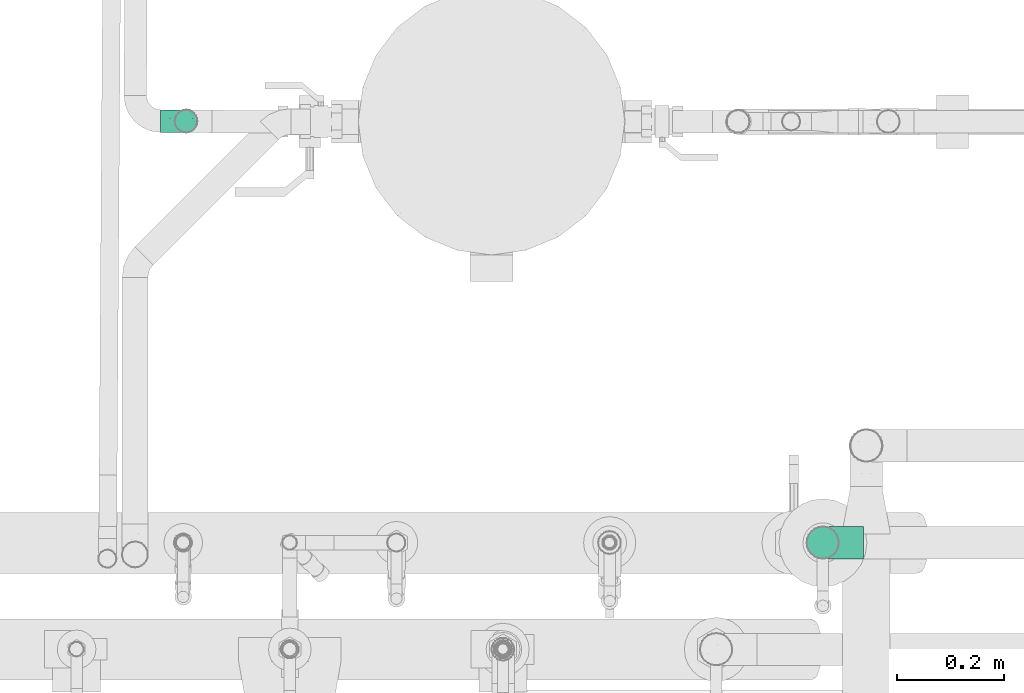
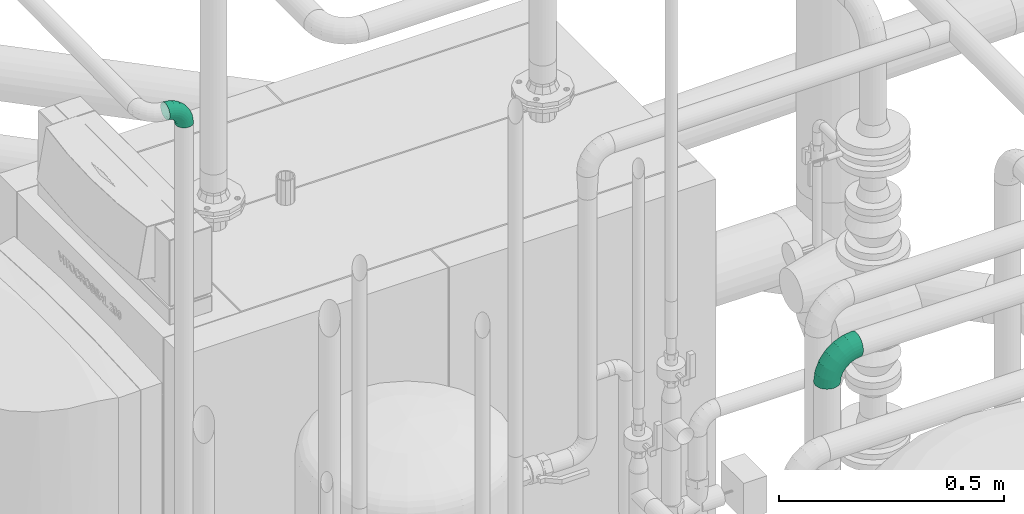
# One storey, part 111 of 374: 2 flow segments.
"""IFC2X3 building model written with IfcOpenShell, lengths in metres."""

from ifc_helpers import new_model, si_unit, direction, origin, place, context, subcontext, project, spatial, open_shell, surface_model, source, transform, mapped, element, save


model = new_model("IFC2X3")

# Units and contexts
model_context = context("Model", 3, precision=1e-05, world=origin(), true_north=direction((-0.4480736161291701, 0.8939966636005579)))
body_context = subcontext(model_context, "Body", "Model", "MODEL_VIEW")
ifc_project = project(units=[si_unit("LENGTHUNIT", "METRE"), si_unit("AREAUNIT", "SQUARE_METRE"), si_unit("VOLUMEUNIT", "CUBIC_METRE"), si_unit("PLANEANGLEUNIT", "RADIAN"), si_unit("THERMODYNAMICTEMPERATUREUNIT", "KELVIN"), si_unit("MASSUNIT", "GRAM", prefix="KILO"), si_unit("TIMEUNIT", "SECOND")], contexts=[model_context])

# Site, building, storey
site_placement = place(None, origin())
site = spatial("IfcSite", under=ifc_project, at=site_placement, Name="Site 1", CompositionType="ELEMENT")
building_placement = place(site_placement, origin())
building = spatial("IfcBuilding", under=site, at=building_placement, Name="Undefined", CompositionType="ELEMENT")
storey_placement = place(building_placement, origin())
storey = spatial("IfcBuildingStorey", under=building, at=storey_placement, Name="Rez de chauss\x8ee", CompositionType="ELEMENT", Elevation=0.0)

# Flow segments
shared_shape_1 = source(origin(), body_context, "Body", "SurfaceModel", [
    surface_model("IfcFaceBasedSurfaceModel", [(0.01806482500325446, 7.105427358e-15, 0.0), (0.017970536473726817, 0.005533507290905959, 0.0), (9.428852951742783e-05, 0.005533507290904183, 1.776356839e-15), (0.0, 0.0, 0.0), (-0.017172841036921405, 0.00613233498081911, -0.004587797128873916), (-0.01744928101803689, 0.0006051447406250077, -0.004636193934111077), (-0.03265412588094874, 0.007289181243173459, -0.013450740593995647), (-0.0330938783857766, 0.0017741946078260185, -0.013592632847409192), (-0.045294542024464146, 0.008925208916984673, -0.02598483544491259), (-0.045867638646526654, 0.0034274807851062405, -0.02625895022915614), (-0.054232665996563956, 0.010928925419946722, -0.041335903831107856), (-0.05490005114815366, 0.005452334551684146, -0.04177195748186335), (-0.05885937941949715, 0.013163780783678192, -0.05845779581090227), (-0.059575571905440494, 0.007710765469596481, -0.05907446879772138), (0.01769409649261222, 0.010875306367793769, -0.0014203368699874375), (0.00037072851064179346, 0.010875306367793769, -0.0014203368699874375), (-0.016362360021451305, 0.011455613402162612, -0.005866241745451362), (-0.03136483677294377, 0.012576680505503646, -0.014455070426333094), (-0.04361430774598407, 0.014162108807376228, -0.026601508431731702), (-0.05227599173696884, 0.016103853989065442, -0.0414777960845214), (-0.05675960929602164, 0.018269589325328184, -0.05807013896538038), (0.017254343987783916, 0.015661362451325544, -0.0041642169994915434), (0.0008104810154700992, 0.015661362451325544, -0.004164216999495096), (-0.01507307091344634, 0.016212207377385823, -0.008384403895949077), (-0.029313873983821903, 0.01727635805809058, -0.016537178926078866), (-0.04094144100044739, 0.01878129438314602, -0.02806694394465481), (-0.049163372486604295, 0.02062445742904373, -0.042187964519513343), (-0.05341935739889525, 0.02268023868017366, -0.05793791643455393), (0.016681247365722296, 0.01956551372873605, -0.008044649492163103), (0.001383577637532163, 0.01956551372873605, -0.008044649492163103), (-0.01339283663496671, 0.020077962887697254, -0.011970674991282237), (-0.026641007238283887, 0.021067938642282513, -0.01955517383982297), (-0.03745809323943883, 0.02246797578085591, -0.03028127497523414), (-0.04510692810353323, 0.0241826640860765, -0.04341801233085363), (-0.04906625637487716, 0.026095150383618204, -0.05807013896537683), (0.016013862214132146, 0.022321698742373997, -0.012797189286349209), (0.0020509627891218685, 0.022321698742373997, -0.012797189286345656), (-0.011436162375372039, 0.02278943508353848, -0.016380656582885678), (-0.023528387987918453, 0.02369303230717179, -0.023303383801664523), (-0.03340164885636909, 0.024970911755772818, -0.03309359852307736), (-0.040383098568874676, 0.026535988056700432, -0.04508411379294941), (-0.04399696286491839, 0.028281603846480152, -0.05845779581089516), (0.015297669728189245, 0.023742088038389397, -0.018097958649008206), (0.00276715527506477, 0.023742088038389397, -0.018097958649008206), (-0.009336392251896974, 0.024161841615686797, -0.021313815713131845), (-0.02018813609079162, 0.02497274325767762, -0.0275263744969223), (-0.029048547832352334, 0.02611953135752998, -0.03631225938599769), (-0.03531380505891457, 0.027524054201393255, -0.04707272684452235), (-0.0385569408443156, 0.02909059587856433, -0.05907446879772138), (0.014581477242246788, 0.023729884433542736, -0.02358571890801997), (0.0034833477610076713, 0.023729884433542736, -0.02358571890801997), (-0.007236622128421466, 0.024101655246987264, -0.026433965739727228), (-0.016847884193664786, 0.02481986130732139, -0.03193635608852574), (-0.02469544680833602, 0.02583555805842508, -0.03971791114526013), (-0.0302445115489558, 0.027079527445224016, -0.04924833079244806), (-0.03311691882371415, 0.02846699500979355, -0.059878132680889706), (0.013914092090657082, 0.02228591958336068, -0.02888648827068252), (0.004150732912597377, 0.022285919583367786, -0.028886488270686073), (-0.005279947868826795, 0.022612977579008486, -0.031392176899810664), (-0.013735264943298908, 0.023244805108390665, -0.03623279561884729), (-0.020639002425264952, 0.02413834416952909, -0.04307846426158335), (-0.025520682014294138, 0.025232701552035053, -0.051462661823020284), (-0.028047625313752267, 0.026453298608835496, -0.060814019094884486), (0.013340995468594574, 0.01950859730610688, -0.03363902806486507), (0.0047238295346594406, 0.01950859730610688, -0.033639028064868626), (-0.0035997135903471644, 0.019797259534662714, -0.035850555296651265), (-0.011062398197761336, 0.0203549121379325, -0.04012289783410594), (-0.017155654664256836, 0.021143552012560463, -0.04616490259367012), (-0.02146423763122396, 0.022109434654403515, -0.05356481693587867), (-0.02369452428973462, 0.023186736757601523, -0.06181834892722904), (0.012901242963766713, 0.015587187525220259, -0.037519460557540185), (0.005163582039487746, 0.015587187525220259, -0.03751946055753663), (-0.0023104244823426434, 0.015846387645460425, -0.03950526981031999), (-0.009011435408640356, 0.016347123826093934, -0.043341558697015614), (-0.01448278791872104, 0.017055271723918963, -0.048766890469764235), (-0.018351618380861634, 0.017922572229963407, -0.05541153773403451), (-0.02035427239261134, 0.018889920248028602, -0.06282267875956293), (0.012624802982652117, 0.010788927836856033, -0.040263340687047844), (0.005440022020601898, 0.010788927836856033, -0.0402633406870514), (-0.0014999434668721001, 0.011029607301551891, -0.04210725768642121), (-0.007722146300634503, 0.01149456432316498, -0.045669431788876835), (-0.012802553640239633, 0.012152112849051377, -0.05070710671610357), (-0.0163949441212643, 0.012957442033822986, -0.056876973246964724), (-0.018254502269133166, 0.013855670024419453, -0.06375856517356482), (0.012530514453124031, 0.005440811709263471, -0.041683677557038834), (0.005534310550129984, 0.0054408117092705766, -0.041683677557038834), (-0.0012235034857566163, 0.005675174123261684, -0.04347919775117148), (-0.007282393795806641, 0.006127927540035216, -0.046947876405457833), (-0.012229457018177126, 0.0067682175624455, -0.05185332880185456), (-0.015727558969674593, 0.007552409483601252, -0.05786125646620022), (-0.01753830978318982, 0.008427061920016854, -0.0645622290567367), (0.012624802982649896, -9.26955816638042e-05, -0.04168367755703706), (0.005440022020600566, -9.269558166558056e-05, -0.04168367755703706), (-0.0014999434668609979, 0.00014798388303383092, -0.0435275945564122), (-0.007722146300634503, 0.0006129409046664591, -0.047089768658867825), (-0.012802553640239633, 0.001270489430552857, -0.05212744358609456), (-0.0163949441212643, 0.002075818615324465, -0.058297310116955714), (-0.018254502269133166, 0.0029740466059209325, -0.06517890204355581), (0.012901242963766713, -0.005434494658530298, -0.0402633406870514), (0.005163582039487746, -0.005434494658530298, -0.040263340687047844), (-0.0023104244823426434, -0.005175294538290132, -0.0422491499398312), (-0.009011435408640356, -0.004674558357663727, -0.046085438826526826), (-0.01448278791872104, -0.0039664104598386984, -0.051510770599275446), (-0.018351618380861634, -0.0030991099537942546, -0.05815541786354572), (-0.02035427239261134, -0.0021317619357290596, -0.06556655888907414), (0.013340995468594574, -0.010220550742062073, -0.03751946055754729), (0.0047238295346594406, -0.010220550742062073, -0.03751946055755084), (-0.0035997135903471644, -0.009931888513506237, -0.03973098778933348), (-0.011062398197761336, -0.009374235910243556, -0.04400333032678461), (-0.017155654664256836, -0.00858559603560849, -0.05004533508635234), (-0.02146423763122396, -0.007619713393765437, -0.057445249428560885), (-0.02369452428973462, -0.006542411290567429, -0.06569878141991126), (0.013914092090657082, -0.01412470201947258, -0.03363902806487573), (0.004150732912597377, -0.014124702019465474, -0.033639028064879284), (-0.005279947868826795, -0.013797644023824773, -0.036144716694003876), (-0.013735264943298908, -0.013165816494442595, -0.0409853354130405), (-0.020639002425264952, -0.012272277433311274, -0.04783100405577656), (-0.025520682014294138, -0.011177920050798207, -0.05621520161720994), (-0.028047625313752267, -0.009957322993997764, -0.0655665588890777), (0.014581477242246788, -0.01688088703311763, -0.028886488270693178), (0.0034833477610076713, -0.01688088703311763, -0.028886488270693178), (-0.007236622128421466, -0.016509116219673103, -0.031734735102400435), (-0.016847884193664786, -0.015790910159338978, -0.03723712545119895), (-0.02469544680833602, -0.014775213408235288, -0.04501868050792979), (-0.0302445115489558, -0.01353124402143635, -0.054549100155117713), (-0.03311691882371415, -0.012143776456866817, -0.06517890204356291), (0.015297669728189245, -0.01830127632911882, -0.02358571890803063), (0.00276715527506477, -0.01830127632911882, -0.02358571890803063), (-0.009336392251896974, -0.01788152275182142, -0.026801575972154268), (-0.02018813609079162, -0.017070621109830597, -0.033014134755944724), (-0.029048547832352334, -0.01592383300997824, -0.04180001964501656), (-0.03531380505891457, -0.014519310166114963, -0.05256048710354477), (-0.0385569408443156, -0.012952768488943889, -0.06456222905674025), (0.016013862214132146, -0.01828907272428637, -0.018097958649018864), (0.0020509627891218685, -0.01828907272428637, -0.018097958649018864), (-0.011436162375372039, -0.01782133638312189, -0.021681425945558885), (-0.023528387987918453, -0.016917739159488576, -0.02860415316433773), (-0.03340164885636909, -0.01563985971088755, -0.038394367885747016), (-0.040383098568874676, -0.014074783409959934, -0.05038488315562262), (-0.04399696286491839, -0.012329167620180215, -0.06375856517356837), (0.016681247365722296, -0.01684510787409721, -0.012797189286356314), (0.001383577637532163, -0.01684510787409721, -0.012797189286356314), (-0.01339283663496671, -0.016332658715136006, -0.01672321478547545), (-0.026641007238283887, -0.015342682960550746, -0.02430771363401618), (-0.03745809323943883, -0.01394264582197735, -0.03503381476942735), (-0.04510692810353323, -0.01222795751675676, -0.04817055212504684), (-0.04906625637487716, -0.010315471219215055, -0.06282267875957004), (0.017254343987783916, -0.014067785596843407, -0.008044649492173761), (0.0008104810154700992, -0.014067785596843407, -0.008044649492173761), (-0.01507307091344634, -0.013516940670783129, -0.012264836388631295), (-0.029313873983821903, -0.012452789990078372, -0.020417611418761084), (-0.04094144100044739, -0.010947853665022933, -0.03194737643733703), (-0.049163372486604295, -0.009104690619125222, -0.04606839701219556), (-0.05341935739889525, -0.007048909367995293, -0.06181834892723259), (0.01769409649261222, -0.010146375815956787, -0.004164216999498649), (0.00037072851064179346, -0.010146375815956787, -0.004164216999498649), (-0.016362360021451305, -0.009566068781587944, -0.008610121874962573), (-0.03136483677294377, -0.008445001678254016, -0.017198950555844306), (-0.04361430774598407, -0.006859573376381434, -0.029345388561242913), (-0.05227599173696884, -0.00491782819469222, -0.04422167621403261), (-0.05675960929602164, -0.002752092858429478, -0.060814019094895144), (0.017970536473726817, -0.0053481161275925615, -0.0014203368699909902), (9.428852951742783e-05, -0.0053481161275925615, -0.0014203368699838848), (-0.017172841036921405, -0.004749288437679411, -0.006008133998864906), (-0.03265412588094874, -0.0035924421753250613, -0.014871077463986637), (-0.045294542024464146, -0.001956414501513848, -0.02740517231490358), (-0.05423266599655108, 4.730200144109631e-05, -0.042756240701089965), (-0.05885937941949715, 0.002282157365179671, -0.05987813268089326)], [open_shell([[[0, 1, 2, 3]], [[3, 2, 4, 5]], [[5, 4, 6, 7]], [[7, 6, 8, 9]], [[9, 8, 10, 11]], [[11, 10, 12, 13]], [[1, 14, 15, 2]], [[2, 15, 16, 4]], [[4, 16, 17, 6]], [[6, 17, 18, 8]], [[8, 18, 19, 10]], [[10, 19, 20, 12]], [[14, 21, 22, 15]], [[15, 22, 23, 16]], [[16, 23, 24, 17]], [[17, 24, 25, 18]], [[18, 25, 26, 19]], [[19, 26, 27, 20]], [[21, 28, 29, 22]], [[22, 29, 30, 23]], [[23, 30, 31, 24]], [[24, 31, 32, 25]], [[25, 32, 33, 26]], [[26, 33, 34, 27]], [[28, 35, 36, 29]], [[29, 36, 37, 30]], [[30, 37, 38, 31]], [[31, 38, 39, 32]], [[32, 39, 40, 33]], [[33, 40, 41, 34]], [[35, 42, 43, 36]], [[36, 43, 44, 37]], [[37, 44, 45, 38]], [[38, 45, 46, 39]], [[39, 46, 47, 40]], [[40, 47, 48, 41]], [[42, 49, 50, 43]], [[43, 50, 51, 44]], [[44, 51, 52, 45]], [[45, 52, 53, 46]], [[46, 53, 54, 47]], [[47, 54, 55, 48]], [[49, 56, 57, 50]], [[50, 57, 58, 51]], [[51, 58, 59, 52]], [[52, 59, 60, 53]], [[53, 60, 61, 54]], [[54, 61, 62, 55]], [[56, 63, 64, 57]], [[57, 64, 65, 58]], [[58, 65, 66, 59]], [[59, 66, 67, 60]], [[60, 67, 68, 61]], [[61, 68, 69, 62]], [[63, 70, 71, 64]], [[64, 71, 72, 65]], [[65, 72, 73, 66]], [[66, 73, 74, 67]], [[67, 74, 75, 68]], [[68, 75, 76, 69]], [[70, 77, 78, 71]], [[71, 78, 79, 72]], [[72, 79, 80, 73]], [[73, 80, 81, 74]], [[74, 81, 82, 75]], [[75, 82, 83, 76]], [[77, 84, 85, 78]], [[78, 85, 86, 79]], [[79, 86, 87, 80]], [[80, 87, 88, 81]], [[81, 88, 89, 82]], [[82, 89, 90, 83]], [[84, 91, 92, 85]], [[85, 92, 93, 86]], [[86, 93, 94, 87]], [[87, 94, 95, 88]], [[88, 95, 96, 89]], [[89, 96, 97, 90]], [[91, 98, 99, 92]], [[92, 99, 100, 93]], [[93, 100, 101, 94]], [[94, 101, 102, 95]], [[95, 102, 103, 96]], [[96, 103, 104, 97]], [[98, 105, 106, 99]], [[99, 106, 107, 100]], [[100, 107, 108, 101]], [[101, 108, 109, 102]], [[102, 109, 110, 103]], [[103, 110, 111, 104]], [[105, 112, 113, 106]], [[106, 113, 114, 107]], [[107, 114, 115, 108]], [[108, 115, 116, 109]], [[109, 116, 117, 110]], [[110, 117, 118, 111]], [[112, 119, 120, 113]], [[113, 120, 121, 114]], [[114, 121, 122, 115]], [[115, 122, 123, 116]], [[116, 123, 124, 117]], [[117, 124, 125, 118]], [[119, 126, 127, 120]], [[120, 127, 128, 121]], [[121, 128, 129, 122]], [[122, 129, 130, 123]], [[123, 130, 131, 124]], [[124, 131, 132, 125]], [[126, 133, 134, 127]], [[127, 134, 135, 128]], [[128, 135, 136, 129]], [[129, 136, 137, 130]], [[130, 137, 138, 131]], [[131, 138, 139, 132]], [[133, 140, 141, 134]], [[134, 141, 142, 135]], [[135, 142, 143, 136]], [[136, 143, 144, 137]], [[137, 144, 145, 138]], [[138, 145, 146, 139]], [[140, 147, 148, 141]], [[141, 148, 149, 142]], [[142, 149, 150, 143]], [[143, 150, 151, 144]], [[144, 151, 152, 145]], [[145, 152, 153, 146]], [[147, 154, 155, 148]], [[148, 155, 156, 149]], [[149, 156, 157, 150]], [[150, 157, 158, 151]], [[151, 158, 159, 152]], [[152, 159, 160, 153]], [[154, 161, 162, 155]], [[155, 162, 163, 156]], [[156, 163, 164, 157]], [[157, 164, 165, 158]], [[158, 165, 166, 159]], [[159, 166, 167, 160]], [[161, 0, 3, 162]], [[162, 3, 5, 163]], [[163, 5, 7, 164]], [[164, 7, 9, 165]], [[165, 9, 11, 166]], [[166, 11, 13, 167]]])]),
])
flow_segment_1_placement = place(storey_placement, origin())
element("IfcFlowSegment", 1, at=flow_segment_1_placement, inside=storey, Name="Tube coudé", ObjectType="Tube coudé", context=body_context, shape_type="MappedRepresentation", body=[
    mapped(shared_shape_1, transform((53.03313546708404, 11.708929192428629, 2.6923699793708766), x_axis=(-0.9914207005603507, 0.00692153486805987, 0.13052619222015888), y_axis=(-0.023815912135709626, -0.9914466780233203, -0.12832103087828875), z_axis=(0.1285215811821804, -0.13032872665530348, 0.9831056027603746))),
])
shared_shape_2 = source(origin(), body_context, "Body", "SurfaceModel", [
    surface_model("IfcFaceBasedSurfaceModel", [(0.027710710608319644, 4.4408921e-16, 0.0), (0.02757661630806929, 0.00786958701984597, 7.105427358e-15), (0.00013409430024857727, 0.00786958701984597, 0.0), (0.0, 0.0, 0.0), (-0.02637334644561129, 0.008788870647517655, -0.0070429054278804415), (-0.026766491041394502, 0.0009282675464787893, -0.007111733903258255), (-0.050139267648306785, 0.010564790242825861, -0.02064875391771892), (-0.050764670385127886, 0.0027215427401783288, -0.02085054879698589), (-0.06954406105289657, 0.013076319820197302, -0.03989032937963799), (-0.07035910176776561, 0.00525761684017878, -0.04028016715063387), (-0.0832653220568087, 0.01615230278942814, -0.06345635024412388), (-0.08421445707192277, 0.00836366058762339, -0.06407649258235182), (-0.09036796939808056, 0.019583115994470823, -0.08974083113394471), (-0.0913865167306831, 0.011828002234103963, -0.09061784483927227), (0.027183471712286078, 0.015466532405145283, -0.0020199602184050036), (0.0005272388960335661, 0.015466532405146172, -0.0020199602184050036), (-0.025220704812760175, 0.016359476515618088, -0.008861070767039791), (-0.048305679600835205, 0.018084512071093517, -0.02207708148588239), (-0.06715448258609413, 0.020524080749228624, -0.04076734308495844), (-0.0804825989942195, 0.023511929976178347, -0.06365814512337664), (-0.08738173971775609, 0.026844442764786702, -0.08918951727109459), (0.026558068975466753, 0.022273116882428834, -0.005922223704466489), (0.001152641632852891, 0.02227311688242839, -0.005922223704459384), (-0.02338711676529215, 0.023124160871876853, -0.012442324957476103), (-0.04538886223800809, 0.02476825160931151, -0.02503819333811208), (-0.06335321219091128, 0.027093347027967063, -0.042851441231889), (-0.07605592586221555, 0.029940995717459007, -0.06466812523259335), (-0.08263133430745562, 0.033117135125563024, -0.08900147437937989), (0.025743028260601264, 0.0278254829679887, -0.011440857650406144), (0.0019676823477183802, 0.027825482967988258, -0.011440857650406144), (-0.020997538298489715, 0.028621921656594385, -0.017542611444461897), (-0.04158759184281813, 0.03016052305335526, -0.029330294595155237), (-0.058399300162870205, 0.0323364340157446, -0.04600059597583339), (-0.07028697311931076, 0.03500136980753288, -0.06641746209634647), (-0.07644048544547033, 0.0379737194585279, -0.08918951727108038), (0.02479389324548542, 0.03174524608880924, -0.01819977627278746), (0.0029168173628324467, 0.03174524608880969, -0.01819977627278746), (-0.018214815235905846, 0.0324780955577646, -0.023814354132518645), (-0.03716091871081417, 0.033893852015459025, -0.034660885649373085), (-0.052630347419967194, 0.03589603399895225, -0.05000019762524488), (-0.06356888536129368, 0.03834819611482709, -0.06878694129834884), (-0.06923108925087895, 0.041083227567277, -0.0897408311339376), (0.023775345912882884, 0.03376528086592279, -0.02573837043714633), (0.003935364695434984, 0.03376528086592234, -0.02573837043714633), (-0.01522858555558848, 0.03442989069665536, -0.03083014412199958), (-0.0324105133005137, 0.03571381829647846, -0.040666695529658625), (-0.046439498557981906, 0.0375295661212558, -0.05457767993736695), (-0.05635948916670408, 0.039753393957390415, -0.07161508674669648), (-0.061494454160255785, 0.04223375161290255, -0.09061784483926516), (0.022756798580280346, 0.03374792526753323, -0.033542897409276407), (0.0049539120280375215, 0.033747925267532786, -0.033542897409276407), (-0.01224235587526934, 0.03434429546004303, -0.03811186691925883), (-0.027660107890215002, 0.035496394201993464, -0.04693843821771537), (-0.040248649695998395, 0.0371257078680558, -0.05942109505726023), (-0.04915009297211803, 0.039121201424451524, -0.07470916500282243), (-0.05375781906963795, 0.041346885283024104, -0.09176079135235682), (0.02180766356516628, 0.03169436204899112, -0.04108149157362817), (0.005903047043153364, 0.031694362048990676, -0.04108149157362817), (-0.00945963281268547, 0.03222714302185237, -0.045163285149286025), (-0.02323343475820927, 0.03325639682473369, -0.05304870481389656), (-0.034479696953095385, 0.034711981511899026, -0.06420037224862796), (-0.04243200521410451, 0.036494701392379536, -0.07785831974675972), (-0.04654842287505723, 0.03848306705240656, -0.09309178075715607), (0.020992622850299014, 0.02774453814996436, -0.0478404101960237), (0.006718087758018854, 0.027744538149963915, -0.0478404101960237), (-0.007070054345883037, 0.02822271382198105, -0.05150385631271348), (-0.019432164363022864, 0.0291464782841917, -0.0585810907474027), (-0.029525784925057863, 0.030452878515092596, -0.06858981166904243), (-0.03666305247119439, 0.032052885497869, -0.08084794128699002), (-0.04035757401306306, 0.03383746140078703, -0.09452010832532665), (0.020367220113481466, 0.022167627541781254, -0.05335904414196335), (0.0073434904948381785, 0.022167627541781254, -0.05335904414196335), (-0.00523646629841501, 0.02260390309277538, -0.05670148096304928), (-0.016515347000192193, 0.023446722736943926, -0.06315857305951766), (-0.025724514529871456, 0.02463864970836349, -0.07229028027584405), (-0.03223637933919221, 0.02609845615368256, -0.0834742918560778), (-0.03560716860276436, 0.027726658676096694, -0.09594843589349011), (0.019974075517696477, 0.01534368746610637, -0.05726130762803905), (0.007736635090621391, 0.01534368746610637, -0.05726130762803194), (-0.004083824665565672, 0.01575362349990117, -0.06040194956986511), (-0.014681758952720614, 0.01654555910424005, -0.06646920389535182), (-0.02333493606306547, 0.01766552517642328, -0.07504959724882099), (-0.029453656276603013, 0.01903719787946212, -0.08555839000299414), (-0.032620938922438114, 0.02056709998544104, -0.09727942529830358), (0.019839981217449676, 0.00773775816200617, -0.05928126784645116), (0.007870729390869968, 0.007737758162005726, -0.05928126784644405), (-0.003690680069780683, 0.008138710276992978, -0.062353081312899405), (-0.014056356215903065, 0.008913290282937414, -0.06828736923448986), (-0.022519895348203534, 0.01000871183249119, -0.07667971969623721), (-0.0285045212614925, 0.011350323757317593, -0.08695820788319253), (-0.03160239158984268, 0.012846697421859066, -0.09842237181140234), (0.019974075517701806, -0.0001318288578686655, -0.05928126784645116), (0.007736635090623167, -0.0001318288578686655, -0.059281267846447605), (-0.004083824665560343, 0.0002781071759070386, -0.062421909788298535), (-0.014681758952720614, 0.001070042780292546, -0.06848916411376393), (-0.02333493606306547, 0.0021900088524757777, -0.0770695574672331), (-0.029453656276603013, 0.0035616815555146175, -0.08757835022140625), (-0.032620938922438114, 0.005091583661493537, -0.09929938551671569), (0.020367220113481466, -0.007728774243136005, -0.057261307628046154), (0.0073434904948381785, -0.007728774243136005, -0.057261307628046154), (-0.00523646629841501, -0.00729249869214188, -0.06060374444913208), (-0.016515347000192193, -0.0064496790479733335, -0.06706083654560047), (-0.025724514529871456, -0.005257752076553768, -0.07619254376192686), (-0.03223637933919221, -0.0037979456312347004, -0.0873765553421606), (-0.03560716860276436, -0.0021697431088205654, -0.09985069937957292), (0.020992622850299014, -0.01453535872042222, -0.053359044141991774), (0.006718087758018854, -0.014535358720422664, -0.053359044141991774), (-0.007070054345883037, -0.01405718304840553, -0.05702249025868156), (-0.019432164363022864, -0.013133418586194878, -0.06409972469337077), (-0.029525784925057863, -0.011827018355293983, -0.07410844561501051), (-0.03666305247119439, -0.01022701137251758, -0.0863665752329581), (-0.04035757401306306, -0.008442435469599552, -0.10003874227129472), (0.02180766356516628, -0.020087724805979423, -0.04784041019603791), (0.005903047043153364, -0.020087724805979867, -0.04784041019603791), (-0.00945963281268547, -0.019554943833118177, -0.05192220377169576), (-0.02323343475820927, -0.018525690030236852, -0.0598076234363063), (-0.034479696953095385, -0.017070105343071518, -0.0709592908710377), (-0.04243200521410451, -0.015287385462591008, -0.08461723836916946), (-0.04654842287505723, -0.013299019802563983, -0.09985069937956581), (0.022756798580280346, -0.024007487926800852, -0.0410814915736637), (0.0049539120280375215, -0.024007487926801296, -0.0410814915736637), (-0.01224235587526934, -0.023411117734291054, -0.04565046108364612), (-0.027660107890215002, -0.022259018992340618, -0.054477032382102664), (-0.040248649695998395, -0.02062970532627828, -0.06695968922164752), (-0.04915009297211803, -0.018634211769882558, -0.08224775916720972), (-0.05375781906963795, -0.016408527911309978, -0.09929938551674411), (0.023775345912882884, -0.026027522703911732, -0.033542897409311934), (0.003935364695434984, -0.026027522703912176, -0.033542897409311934), (-0.01522858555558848, -0.025362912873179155, -0.038634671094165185), (-0.0324105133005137, -0.024078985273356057, -0.04847122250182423), (-0.046439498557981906, -0.02226323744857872, -0.062382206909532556), (-0.05635948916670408, -0.020039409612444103, -0.07941961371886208), (-0.061494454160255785, -0.01755905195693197, -0.09842237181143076), (0.02479389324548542, -0.02601016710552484, -0.02573837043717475), (0.0029168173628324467, -0.026010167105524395, -0.02573837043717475), (-0.018214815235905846, -0.025277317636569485, -0.031352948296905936), (-0.03716091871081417, -0.023861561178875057, -0.04219947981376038), (-0.052630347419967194, -0.021859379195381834, -0.05753879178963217), (-0.06356888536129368, -0.01940721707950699, -0.07632553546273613), (-0.06923108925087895, -0.01667218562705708, -0.0972794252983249), (0.025743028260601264, -0.023956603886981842, -0.018199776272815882), (0.0019676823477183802, -0.023956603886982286, -0.018199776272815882), (-0.020997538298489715, -0.02316016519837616, -0.024301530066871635), (-0.04158759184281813, -0.021621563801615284, -0.036089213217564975), (-0.058399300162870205, -0.019445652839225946, -0.05275951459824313), (-0.07028697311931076, -0.016780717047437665, -0.0731763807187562), (-0.07644048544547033, -0.013808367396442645, -0.09594843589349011), (0.026558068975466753, -0.020006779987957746, -0.011440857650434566), (0.001152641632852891, -0.02000677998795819, -0.01144085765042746), (-0.02338711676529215, -0.019155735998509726, -0.01796095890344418), (-0.04538886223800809, -0.01751164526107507, -0.030556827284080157), (-0.06335321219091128, -0.015186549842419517, -0.048370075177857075), (-0.07605592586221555, -0.012338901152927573, -0.07018675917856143), (-0.08263133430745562, -0.009162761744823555, -0.09452010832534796), (0.027183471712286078, -0.014429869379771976, -0.005922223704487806), (0.0005272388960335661, -0.014429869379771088, -0.005922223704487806), (-0.025220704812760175, -0.013536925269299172, -0.012763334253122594), (-0.048305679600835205, -0.011811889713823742, -0.02597934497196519), (-0.06715448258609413, -0.009372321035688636, -0.04466960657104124), (-0.0804825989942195, -0.006384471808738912, -0.06756040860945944), (-0.08738173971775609, -0.003051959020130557, -0.09309178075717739), (0.02757661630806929, -0.007605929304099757, -0.0020199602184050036), (0.00013409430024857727, -0.007605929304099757, -0.002019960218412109), (-0.02637334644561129, -0.006686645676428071, -0.00906286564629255), (-0.050139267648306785, -0.004910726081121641, -0.02266871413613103), (-0.06954406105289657, -0.0023991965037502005, -0.0419102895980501), (-0.0832653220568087, 0.0006767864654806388, -0.06547631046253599), (-0.09036796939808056, 0.004107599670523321, -0.09176079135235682)], [open_shell([[[0, 1, 2, 3]], [[3, 2, 4, 5]], [[5, 4, 6, 7]], [[7, 6, 8, 9]], [[9, 8, 10, 11]], [[11, 10, 12, 13]], [[1, 14, 15, 2]], [[2, 15, 16, 4]], [[4, 16, 17, 6]], [[6, 17, 18, 8]], [[8, 18, 19, 10]], [[10, 19, 20, 12]], [[14, 21, 22, 15]], [[15, 22, 23, 16]], [[16, 23, 24, 17]], [[17, 24, 25, 18]], [[18, 25, 26, 19]], [[19, 26, 27, 20]], [[21, 28, 29, 22]], [[22, 29, 30, 23]], [[23, 30, 31, 24]], [[24, 31, 32, 25]], [[25, 32, 33, 26]], [[26, 33, 34, 27]], [[28, 35, 36, 29]], [[29, 36, 37, 30]], [[30, 37, 38, 31]], [[31, 38, 39, 32]], [[32, 39, 40, 33]], [[33, 40, 41, 34]], [[35, 42, 43, 36]], [[36, 43, 44, 37]], [[37, 44, 45, 38]], [[38, 45, 46, 39]], [[39, 46, 47, 40]], [[40, 47, 48, 41]], [[42, 49, 50, 43]], [[43, 50, 51, 44]], [[44, 51, 52, 45]], [[45, 52, 53, 46]], [[46, 53, 54, 47]], [[47, 54, 55, 48]], [[49, 56, 57, 50]], [[50, 57, 58, 51]], [[51, 58, 59, 52]], [[52, 59, 60, 53]], [[53, 60, 61, 54]], [[54, 61, 62, 55]], [[56, 63, 64, 57]], [[57, 64, 65, 58]], [[58, 65, 66, 59]], [[59, 66, 67, 60]], [[60, 67, 68, 61]], [[61, 68, 69, 62]], [[63, 70, 71, 64]], [[64, 71, 72, 65]], [[65, 72, 73, 66]], [[66, 73, 74, 67]], [[67, 74, 75, 68]], [[68, 75, 76, 69]], [[70, 77, 78, 71]], [[71, 78, 79, 72]], [[72, 79, 80, 73]], [[73, 80, 81, 74]], [[74, 81, 82, 75]], [[75, 82, 83, 76]], [[77, 84, 85, 78]], [[78, 85, 86, 79]], [[79, 86, 87, 80]], [[80, 87, 88, 81]], [[81, 88, 89, 82]], [[82, 89, 90, 83]], [[84, 91, 92, 85]], [[85, 92, 93, 86]], [[86, 93, 94, 87]], [[87, 94, 95, 88]], [[88, 95, 96, 89]], [[89, 96, 97, 90]], [[91, 98, 99, 92]], [[92, 99, 100, 93]], [[93, 100, 101, 94]], [[94, 101, 102, 95]], [[95, 102, 103, 96]], [[96, 103, 104, 97]], [[98, 105, 106, 99]], [[99, 106, 107, 100]], [[100, 107, 108, 101]], [[101, 108, 109, 102]], [[102, 109, 110, 103]], [[103, 110, 111, 104]], [[105, 112, 113, 106]], [[106, 113, 114, 107]], [[107, 114, 115, 108]], [[108, 115, 116, 109]], [[109, 116, 117, 110]], [[110, 117, 118, 111]], [[112, 119, 120, 113]], [[113, 120, 121, 114]], [[114, 121, 122, 115]], [[115, 122, 123, 116]], [[116, 123, 124, 117]], [[117, 124, 125, 118]], [[119, 126, 127, 120]], [[120, 127, 128, 121]], [[121, 128, 129, 122]], [[122, 129, 130, 123]], [[123, 130, 131, 124]], [[124, 131, 132, 125]], [[126, 133, 134, 127]], [[127, 134, 135, 128]], [[128, 135, 136, 129]], [[129, 136, 137, 130]], [[130, 137, 138, 131]], [[131, 138, 139, 132]], [[133, 140, 141, 134]], [[134, 141, 142, 135]], [[135, 142, 143, 136]], [[136, 143, 144, 137]], [[137, 144, 145, 138]], [[138, 145, 146, 139]], [[140, 147, 148, 141]], [[141, 148, 149, 142]], [[142, 149, 150, 143]], [[143, 150, 151, 144]], [[144, 151, 152, 145]], [[145, 152, 153, 146]], [[147, 154, 155, 148]], [[148, 155, 156, 149]], [[149, 156, 157, 150]], [[150, 157, 158, 151]], [[151, 158, 159, 152]], [[152, 159, 160, 153]], [[154, 161, 162, 155]], [[155, 162, 163, 156]], [[156, 163, 164, 157]], [[157, 164, 165, 158]], [[158, 165, 166, 159]], [[159, 166, 167, 160]], [[161, 0, 3, 162]], [[162, 3, 5, 163]], [[163, 5, 7, 164]], [[164, 7, 9, 165]], [[165, 9, 11, 166]], [[166, 11, 13, 167]]])]),
])
flow_segment_2_placement = place(storey_placement, origin())
element("IfcFlowSegment", 2, at=flow_segment_2_placement, inside=storey, Name="Tube coudé", ObjectType="Tube coudé", context=body_context, shape_type="MappedRepresentation", body=[
    mapped(shared_shape_2, transform((54.306088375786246, 10.918037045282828, 2.0861747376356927), x_axis=(0.9914448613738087, 0.0, 0.13052619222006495), y_axis=(0.016893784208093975, 0.991588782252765, -0.1283210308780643), z_axis=(-0.12942830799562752, 0.12942830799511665, 0.9831056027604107))),
])

save(model, "model.ifc")
